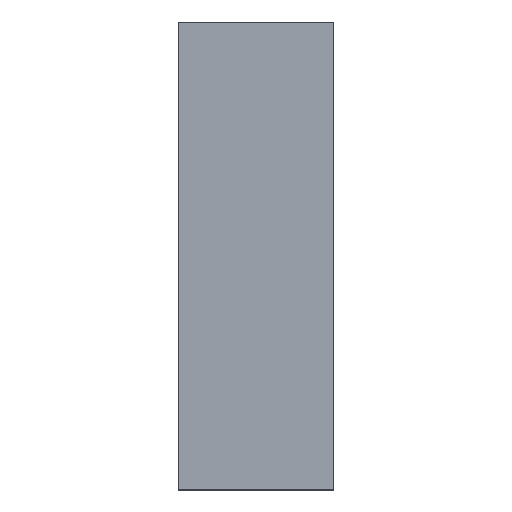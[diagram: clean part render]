
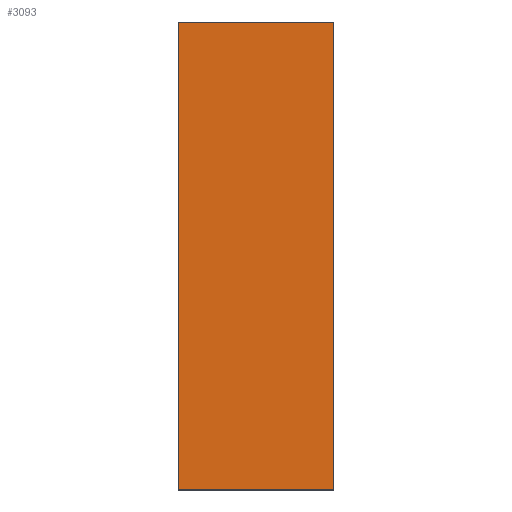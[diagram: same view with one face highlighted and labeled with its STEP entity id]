
A CAD part, top view. The second image highlights one B-rep face of the part: STEP entity #3093.
In plain terms, the highlighted planar face has unit normal (0, 0, 1) as drawn and (0, 0, -1) by its records, which use the part's own axes.
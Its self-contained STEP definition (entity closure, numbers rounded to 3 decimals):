
#115 = EDGE_CURVE ( 'NONE', #1282, #1015, #2003, .T. ) ;
#175 = DIRECTION ( 'NONE',  ( 0., 1., 0. ) ) ;
#187 = CARTESIAN_POINT ( 'NONE',  ( 50., 0., 0. ) ) ;
#309 = VERTEX_POINT ( 'NONE', #3183 ) ;
#463 = ORIENTED_EDGE ( 'NONE', *, *, #525, .F. ) ;
#525 = EDGE_CURVE ( 'NONE', #1874, #309, #574, .T. ) ;
#547 = CARTESIAN_POINT ( 'NONE',  ( 0., 0., 0. ) ) ;
#574 = LINE ( 'NONE', #1825, #1166 ) ;
#636 = FACE_OUTER_BOUND ( 'NONE', #2505, .T. ) ;
#712 = AXIS2_PLACEMENT_3D ( 'NONE', #547, #2542, #1064 ) ;
#722 = LINE ( 'NONE', #187, #1860 ) ;
#829 = ORIENTED_EDGE ( 'NONE', *, *, #2658, .F. ) ;
#1015 = VERTEX_POINT ( 'NONE', #2274 ) ;
#1064 = DIRECTION ( 'NONE',  ( -1., 0., 0. ) ) ;
#1166 = VECTOR ( 'NONE', #2311, 1000. ) ;
#1282 = VERTEX_POINT ( 'NONE', #1675 ) ;
#1300 = LINE ( 'NONE', #1746, #2738 ) ;
#1447 = DIRECTION ( 'NONE',  ( 0., -1., 0. ) ) ;
#1564 = PLANE ( 'NONE',  #712 ) ;
#1675 = CARTESIAN_POINT ( 'NONE',  ( 50., 150., 0. ) ) ;
#1729 = ORIENTED_EDGE ( 'NONE', *, *, #2879, .F. ) ;
#1746 = CARTESIAN_POINT ( 'NONE',  ( 0., 0., 0. ) ) ;
#1825 = CARTESIAN_POINT ( 'NONE',  ( 0., 0., 0. ) ) ;
#1860 = VECTOR ( 'NONE', #175, 1000. ) ;
#1874 = VERTEX_POINT ( 'NONE', #2859 ) ;
#1899 = DIRECTION ( 'NONE',  ( -1., 0., 0. ) ) ;
#2003 = LINE ( 'NONE', #2419, #2694 ) ;
#2274 = CARTESIAN_POINT ( 'NONE',  ( 0., 150., 0. ) ) ;
#2311 = DIRECTION ( 'NONE',  ( 1., 0., 0. ) ) ;
#2419 = CARTESIAN_POINT ( 'NONE',  ( 0., 150., 0. ) ) ;
#2505 = EDGE_LOOP ( 'NONE', ( #829, #2538, #1729, #463 ) ) ;
#2538 = ORIENTED_EDGE ( 'NONE', *, *, #115, .F. ) ;
#2542 = DIRECTION ( 'NONE',  ( 0., 0., -1. ) ) ;
#2658 = EDGE_CURVE ( 'NONE', #1015, #1874, #1300, .T. ) ;
#2694 = VECTOR ( 'NONE', #1899, 1000. ) ;
#2738 = VECTOR ( 'NONE', #1447, 1000. ) ;
#2859 = CARTESIAN_POINT ( 'NONE',  ( 0., 0., 0. ) ) ;
#2879 = EDGE_CURVE ( 'NONE', #309, #1282, #722, .T. ) ;
#3093 = ADVANCED_FACE ( 'NONE', ( #636 ), #1564, .T. ) ;
#3183 = CARTESIAN_POINT ( 'NONE',  ( 50., 0., 0. ) ) ;
